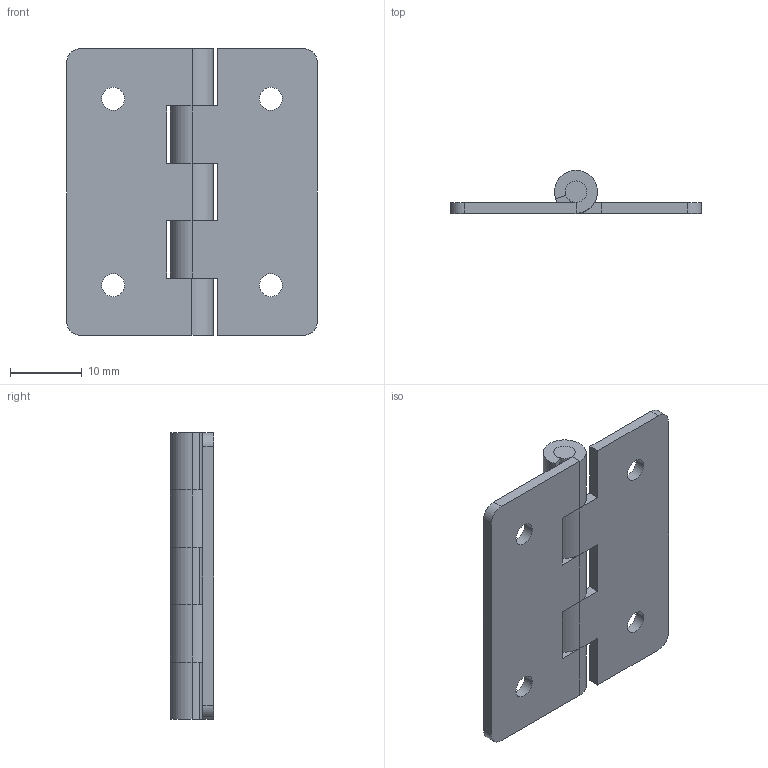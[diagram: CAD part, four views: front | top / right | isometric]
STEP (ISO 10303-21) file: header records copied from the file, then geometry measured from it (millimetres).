
FILE_DESCRIPTION (( 'STEP AP214' ), '1' );
FILE_NAME ('SK2-0510-1.STEP', '2020-03-26T02:43:08', ( 'admin' ), ( 'Microsoft' ), 'SwSTEP 2.0', 'SolidWorks 2018', '' );
FILE_SCHEMA (( 'AUTOMOTIVE_DESIGN' ));
Length unit declared in the file: millimetre
Products named in the file (4): 2-0510-1-F3; 2-0510-1-F2; 2-0510-1-F1; SK2-0510-1
Assembly tree (3 placements, depth 2):
  SK2-0510-1
    2-0510-1-F1
    2-0510-1-F2
    2-0510-1-F3
Bounding box: 35 x 6 x 40 mm (x, y, z)
Volume: 2801.4 mm3; surface area: 4351.5 mm2
Topology: 3 solids, 3 shells, 78 faces, 208 edges, 136 vertices
Faces by surface type: cylinder 44, plane 34
Entity records: 2626 total; most frequent: DIRECTION 464, CARTESIAN_POINT 428, ORIENTED_EDGE 416, EDGE_CURVE 208, AXIS2_PLACEMENT_3D 172, VERTEX_POINT 136, VECTOR 120, LINE 120
